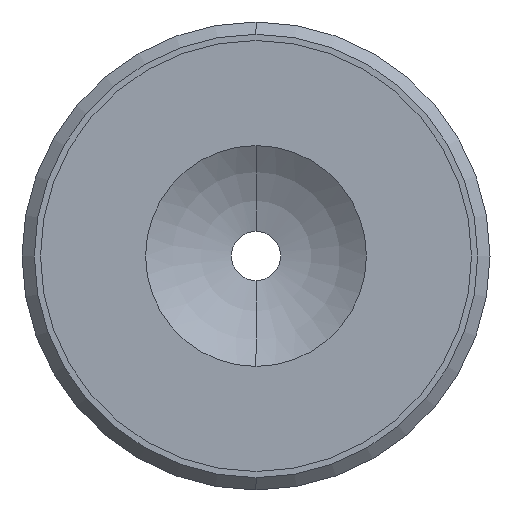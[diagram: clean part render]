
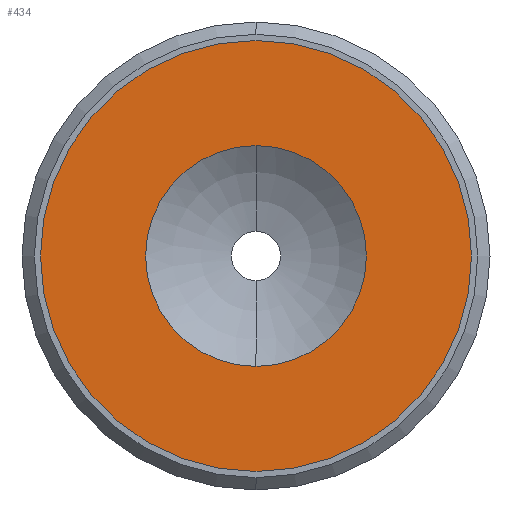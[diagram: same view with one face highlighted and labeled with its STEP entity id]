
A CAD part, left-side view. The second image highlights one B-rep face of the part: STEP entity #434.
In plain terms, the highlighted planar face has unit normal (-1, 0, 0).
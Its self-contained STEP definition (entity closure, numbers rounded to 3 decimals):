
#23 = DIRECTION ( 'NONE',  ( 1., 0., 0. ) ) ;
#31 = VERTEX_POINT ( 'NONE', #104 ) ;
#37 = AXIS2_PLACEMENT_3D ( 'NONE', #283, #23, #62 ) ;
#42 = AXIS2_PLACEMENT_3D ( 'NONE', #171, #310, #495 ) ;
#62 = DIRECTION ( 'NONE',  ( 0., 0., -1. ) ) ;
#75 = ORIENTED_EDGE ( 'NONE', *, *, #502, .T. ) ;
#104 = CARTESIAN_POINT ( 'NONE',  ( 0., 0., -17.5 ) ) ;
#149 = DIRECTION ( 'NONE',  ( 0., 0., 1. ) ) ;
#171 = CARTESIAN_POINT ( 'NONE',  ( 0., 0., 0. ) ) ;
#174 = CARTESIAN_POINT ( 'NONE',  ( 0., 0., 0. ) ) ;
#185 = CARTESIAN_POINT ( 'NONE',  ( 0., 0., 0. ) ) ;
#209 = ORIENTED_EDGE ( 'NONE', *, *, #388, .T. ) ;
#216 = VERTEX_POINT ( 'NONE', #438 ) ;
#222 = CARTESIAN_POINT ( 'NONE',  ( 0., 0., 0. ) ) ;
#225 = CARTESIAN_POINT ( 'NONE',  ( 0., 0., -8.962 ) ) ;
#234 = EDGE_CURVE ( 'NONE', #390, #555, #284, .T. ) ;
#272 = ORIENTED_EDGE ( 'NONE', *, *, #492, .F. ) ;
#283 = CARTESIAN_POINT ( 'NONE',  ( 0., 8.962, 0. ) ) ;
#284 = CIRCLE ( 'NONE', #42, 8.962 ) ;
#295 = FACE_OUTER_BOUND ( 'NONE', #483, .T. ) ;
#301 = DIRECTION ( 'NONE',  ( 0., 0., 1. ) ) ;
#310 = DIRECTION ( 'NONE',  ( -1., 0., 0. ) ) ;
#316 = AXIS2_PLACEMENT_3D ( 'NONE', #174, #389, #301 ) ;
#354 = DIRECTION ( 'NONE',  ( 0., 0., 1. ) ) ;
#355 = CIRCLE ( 'NONE', #523, 8.962 ) ;
#359 = PLANE ( 'NONE',  #37 ) ;
#361 = DIRECTION ( 'NONE',  ( -1., 0., 0. ) ) ;
#388 = EDGE_CURVE ( 'NONE', #31, #216, #430, .T. ) ;
#389 = DIRECTION ( 'NONE',  ( -1., 0., 0. ) ) ;
#390 = VERTEX_POINT ( 'NONE', #575 ) ;
#401 = FACE_BOUND ( 'NONE', #576, .T. ) ;
#430 = CIRCLE ( 'NONE', #316, 17.5 ) ;
#434 = ADVANCED_FACE ( 'NONE', ( #401, #295 ), #359, .F. ) ;
#436 = ORIENTED_EDGE ( 'NONE', *, *, #234, .F. ) ;
#438 = CARTESIAN_POINT ( 'NONE',  ( 0., 0., 17.5 ) ) ;
#474 = CIRCLE ( 'NONE', #479, 17.5 ) ;
#479 = AXIS2_PLACEMENT_3D ( 'NONE', #222, #487, #354 ) ;
#483 = EDGE_LOOP ( 'NONE', ( #75, #209 ) ) ;
#487 = DIRECTION ( 'NONE',  ( -1., 0., 0. ) ) ;
#492 = EDGE_CURVE ( 'NONE', #555, #390, #355, .T. ) ;
#495 = DIRECTION ( 'NONE',  ( 0., 0., 1. ) ) ;
#502 = EDGE_CURVE ( 'NONE', #216, #31, #474, .T. ) ;
#523 = AXIS2_PLACEMENT_3D ( 'NONE', #185, #361, #149 ) ;
#555 = VERTEX_POINT ( 'NONE', #225 ) ;
#575 = CARTESIAN_POINT ( 'NONE',  ( 0., 0., 8.962 ) ) ;
#576 = EDGE_LOOP ( 'NONE', ( #436, #272 ) ) ;
